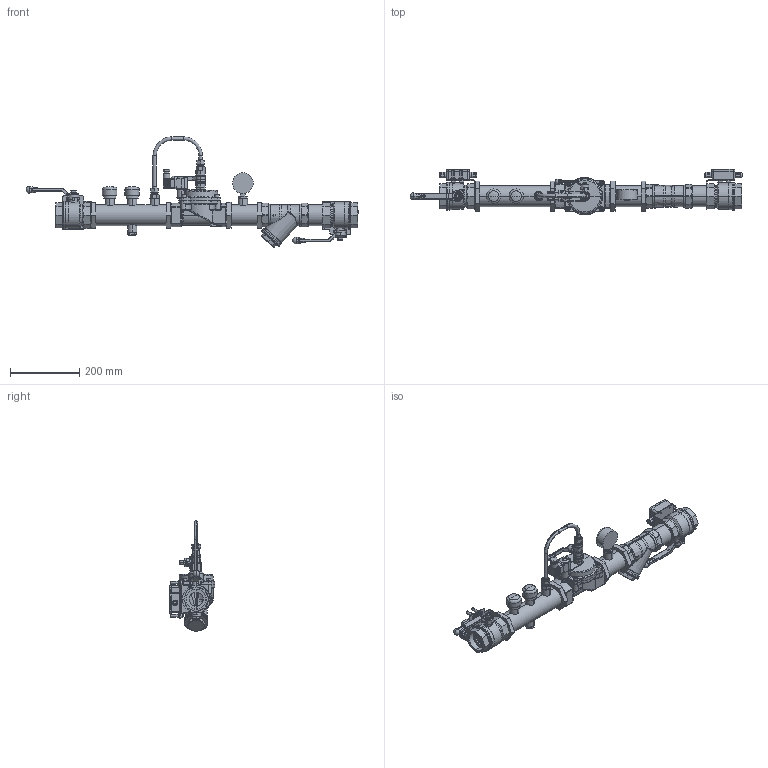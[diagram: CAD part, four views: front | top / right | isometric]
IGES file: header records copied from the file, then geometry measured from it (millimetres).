
Start section: File generated by T-FLEX CAD Version (null)
Global section: file name:                  DN 50 3D.igs; native system: T-FLEX CAD; date: 211014.093908; units: millimetre
Bounding box: 959.86 x 131.88 x 318.93 mm (x, y, z)
Volume: 1883270.9 mm3; surface area: 773048.7 mm2
Topology: 109 solids, 125 shells, 4403 faces, 13177 edges, 9142 vertices
Faces by surface type: plane 1704, cylinder 1243, bspline 518, cone 504, revolution 364, sphere 70
